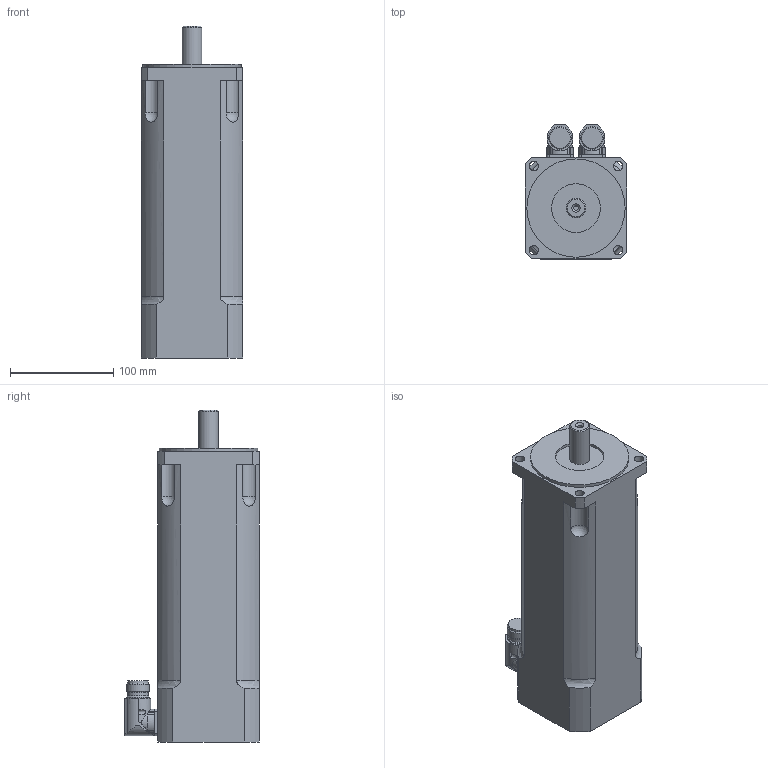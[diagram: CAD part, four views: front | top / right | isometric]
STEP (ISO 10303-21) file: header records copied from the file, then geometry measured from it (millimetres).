
FILE_DESCRIPTION(/* description */ ('Alibre Inc.'),/* implementation_level */ '2;1');
FILE_NAME(/* name */ 'export2',/* time_stamp */ '2013-05-02T07:40:41+02:00',/* author */ (''),/* organization */ (''),/* preprocessor_version */ 'ST-DEVELOPER v12',/* originating_system */ 'Alibre',/* authorisation */ '');
FILE_SCHEMA (('CONFIG_CONTROL_DESIGN'));
Length unit declared in the file: centimetre
Products named in the file (3): ID_1
Bounding box: 98 x 130 x 321 mm (x, y, z)
Volume: 2568394.4 mm3; surface area: 141157.3 mm2
Topology: 3 solids, 3 shells, 188 faces, 510 edges, 338 vertices
Faces by surface type: cylinder 112, plane 58, cone 8, torus 4, sphere 4, bspline 2
Full cylindrical faces by diameter (mm): 2.7 x8, 4.134 x1, 9 x4, 19 x1, 20 x8, 22 x4, 47 x1, 95 x1
Entity records: 4911 total; most frequent: CARTESIAN_POINT 1668, DIRECTION 600, ORIENTED_EDGE 588, EDGE_CURVE 294, AXIS2_PLACEMENT_3D 263, VERTEX_POINT 210, EDGE_LOOP 168, FACE_BOUND 168
